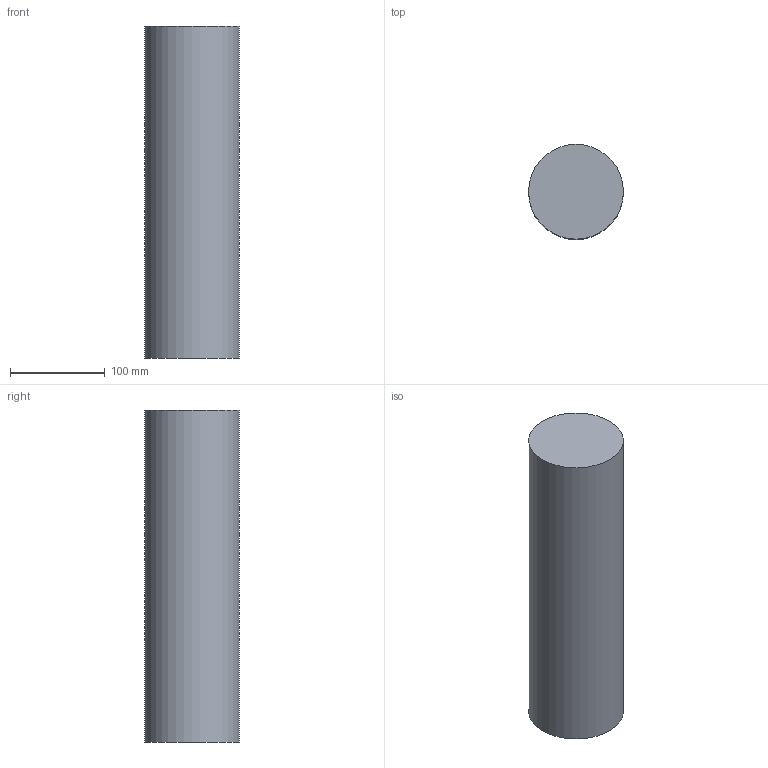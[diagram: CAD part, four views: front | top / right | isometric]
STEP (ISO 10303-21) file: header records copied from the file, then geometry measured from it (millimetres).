
FILE_DESCRIPTION(('Open CASCADE Model'),'2;1');
FILE_NAME('Open CASCADE Shape Model','2026-10-15T15:10:05',('Author'),( 'Open CASCADE'),'Open CASCADE STEP processor 8.0','Open CASCADE 8.0' ,'Unknown');
FILE_SCHEMA(('AUTOMOTIVE_DESIGN { 1 0 10303 214 1 1 1 1 }'));
Length unit declared in the file: millimetre
Products named in the file (1): TOPE_PU_D100_L350_RESERVA_REF 157
Bounding box: 100 x 100 x 350 mm (x, y, z)
Volume: 2748893.6 mm3; surface area: 125663.7 mm2
Topology: 1 solids, 1 shells, 3 faces, 3 edges, 2 vertices
Faces by surface type: plane 2, cylinder 1
Full cylindrical faces by diameter (mm): 100 x1
Entity records: 108 total; most frequent: DIRECTION 19, CARTESIAN_POINT 15, AXIS2_PLACEMENT_3D 6, ORIENTED_EDGE 6, PCURVE 6, DEFINITIONAL_REPRESENTATION 6, LINE 5, VECTOR 5
